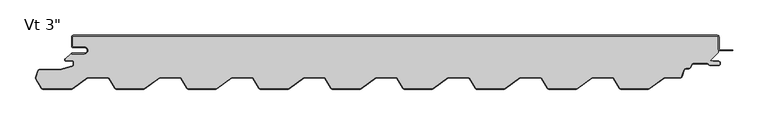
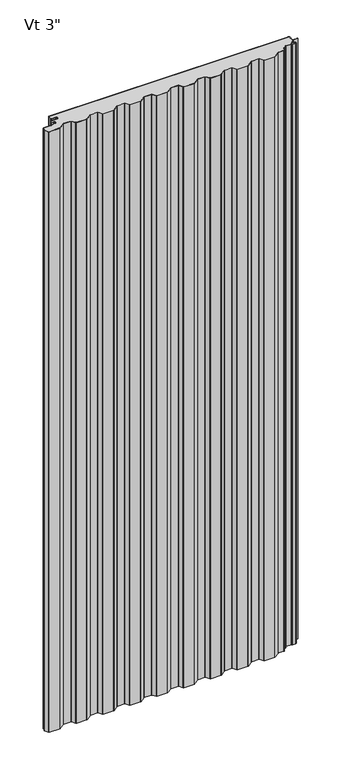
"""IFC4 building model written with IfcOpenShell, lengths in millimetres: plate geometry."""

from ifc_helpers import new_model, si_unit, point, frame_2d, origin, origin_with_axes, place, context, project, spatial, polyline, circle_curve, trimmed, segment, composite_curve, outline, extrude, source, transform, mapped, element, save


def plate_6bac3a30(model_context):
    return source(origin(), model_context, "Body", "SweptSolid", [
        extrude(outline(composite_curve([segment(trimmed(circle_curve(frame_2d((457.1717591, -19.452954)), 2.3819944), [point((457.1717591, -21.8349484))], [point((454.7897647, -19.452954))], False, "CARTESIAN"), True, "CONTINUOUS"), segment(polyline([(454.7897647, -19.452954), (454.7897647, -2.3819944)]), True, "CONTINUOUS"), segment(trimmed(circle_curve(frame_2d((453.2017685, -2.3819944)), 1.5879962), [point((454.7897647, -2.3819944))], [point((453.2017685, -0.7939981))], True, "CARTESIAN"), True, "CONTINUOUS"), segment(polyline([(453.2017685, -0.7939981), (-454.8180056, -0.7939981)]), True, "CONTINUOUS"), segment(trimmed(circle_curve(frame_2d((-454.8180056, -2.3819944)), 1.5879962), [point((-454.8180056, -0.7939981))], [point((-456.4060019, -2.3819944))], True, "CARTESIAN"), True, "CONTINUOUS"), segment(polyline([(-456.4060019, -2.3819944), (-456.4060019, -15.0859644)]), True, "CONTINUOUS"), segment(trimmed(circle_curve(frame_2d((-454.8180056, -15.0859644)), 1.5879962), [point((-456.4060019, -15.0859644))], [point((-454.8180056, -16.6739606))], True, "CARTESIAN"), True, "CONTINUOUS"), segment(polyline([(-454.8180056, -16.6739606), (-438.9380431, -16.6739606)]), True, "CONTINUOUS"), segment(trimmed(circle_curve(frame_2d((-438.9380431, -21.4379494)), 4.7639887), [point((-438.9380431, -16.6739606))], [point((-438.9380431, -26.2019381))], False, "CARTESIAN"), True, "CONTINUOUS"), segment(polyline([(-438.9380431, -26.2019381), (-457.2, -26.2019381), (-457.2, -25.40794), (-438.9380431, -25.40794)]), True, "CONTINUOUS"), segment(trimmed(circle_curve(frame_2d((-438.9380431, -21.4379494)), 3.9699906), [point((-438.9380431, -25.40794))], [point((-438.9380431, -17.4679587))], True, "CARTESIAN"), True, "CONTINUOUS"), segment(polyline([(-438.9380431, -17.4679587), (-454.8180056, -17.4679587)]), True, "CONTINUOUS"), segment(trimmed(circle_curve(frame_2d((-454.8180056, -15.0859644)), 2.3819944), [point((-454.8180056, -17.4679587))], [point((-457.2, -15.0859644))], False, "CARTESIAN"), True, "CONTINUOUS"), segment(polyline([(-457.2, -15.0859644), (-457.2, -2.3819944)]), True, "CONTINUOUS"), segment(trimmed(circle_curve(frame_2d((-454.8180056, -2.3819944)), 2.3819944), [point((-457.2, -2.3819944))], [point((-454.8180056, 0.0))], False, "CARTESIAN"), True, "CONTINUOUS"), segment(polyline([(-454.8180056, 0.0), (453.2017685, 0.0)]), True, "CONTINUOUS"), segment(trimmed(circle_curve(frame_2d((453.2017685, -2.3819944)), 2.3819944), [point((453.2017685, 0.0))], [point((455.5837628, -2.3819944))], False, "CARTESIAN"), True, "CONTINUOUS"), segment(polyline([(455.5837628, -2.3819944), (455.5837628, -19.452954)]), True, "CONTINUOUS"), segment(trimmed(circle_curve(frame_2d((457.1717591, -19.452954)), 1.5879962), [point((455.5837628, -19.452954))], [point((457.1717591, -21.0409503))], True, "CARTESIAN"), True, "CONTINUOUS"), segment(polyline([(457.1717591, -21.0409503), (474.6397178, -21.0409503), (474.6397178, -21.8349484), (457.1717591, -21.8349484)]), True, "CONTINUOUS")], self_intersect=False)), origin_with_axes(), (0.0, 0.0, 1.0), 2400.0),
        extrude(outline(composite_curve([segment(trimmed(circle_curve(frame_2d((454.386154, -39.7050509)), 2.3819944), [point((454.4697098, -37.3245224))], [point((456.7681484, -39.7050509))], False, "CARTESIAN"), True, "CONTINUOUS"), segment(trimmed(circle_curve(frame_2d((454.386154, -39.7050509)), 2.3819944), [point((456.7681484, -39.7050509))], [point((454.3711285, -42.0869979))], False, "CARTESIAN"), True, "CONTINUOUS"), segment(polyline([(454.3711285, -42.0869979), (443.4817205, -42.0869979)]), True, "CONTINUOUS"), segment(trimmed(circle_curve(frame_2d((443.4817205, -39.7050035)), 2.3819944), [point((443.4817205, -42.0869979))], [point((441.4482117, -40.9454628))], False, "CARTESIAN"), True, "CONTINUOUS"), segment(trimmed(circle_curve(frame_2d((438.7639801, -42.5828691)), 3.1442326), [point((441.4482117, -40.9454628))], [point((438.7639801, -39.4386365))], True, "CARTESIAN"), True, "CONTINUOUS"), segment(polyline([(438.7639801, -39.4386365), (419.8818929, -39.4386365)]), True, "CONTINUOUS"), segment(trimmed(circle_curve(frame_2d((419.8818929, -42.5828691)), 3.1442326), [point((419.8818929, -39.4386365))], [point((417.1272542, -41.0668994))], True, "CARTESIAN"), True, "CONTINUOUS"), segment(polyline([(417.1272542, -41.0668994), (414.8105341, -45.276566)]), True, "CONTINUOUS"), segment(trimmed(circle_curve(frame_2d((412.7236865, -44.1281042)), 2.3819944), [point((414.8105341, -45.276566))], [point((412.7236865, -46.5100985))], False, "CARTESIAN"), True, "CONTINUOUS"), segment(polyline([(412.7236865, -46.5100985), (409.0593718, -46.5100985)]), True, "CONTINUOUS"), segment(trimmed(circle_curve(frame_2d((409.0593718, -49.6543311)), 3.1442326), [point((409.0593718, -46.5100985))], [point((406.1047597, -48.5789402))], True, "CARTESIAN"), True, "CONTINUOUS"), segment(polyline([(406.1047597, -48.5789402), (402.692978, -57.9527332)]), True, "CONTINUOUS"), segment(trimmed(circle_curve(frame_2d((400.4546355, -57.1380431)), 2.3819944), [point((402.692978, -57.9527332))], [point((400.4546355, -59.5200375))], False, "CARTESIAN"), True, "CONTINUOUS"), segment(polyline([(400.4546355, -59.5200375), (379.6554059, -59.5200375)]), True, "CONTINUOUS"), segment(trimmed(circle_curve(frame_2d((379.6554059, -61.870272)), 2.3502344), [point((379.6554059, -59.5200375))], [point((378.2893598, -59.9578075))], True, "CARTESIAN"), True, "CONTINUOUS"), segment(polyline([(378.2893598, -59.9578075), (357.0843971, -75.1042095)]), True, "CONTINUOUS"), segment(trimmed(circle_curve(frame_2d((356.1613931, -73.8120038)), 1.5879962), [point((357.0843971, -75.1042095))], [point((356.1613931, -75.4))], False, "CARTESIAN"), True, "CONTINUOUS"), segment(polyline([(356.1613931, -75.4), (316.9573387, -75.4)]), True, "CONTINUOUS"), segment(trimmed(circle_curve(frame_2d((316.9573387, -73.8120038)), 1.5879962), [point((316.9573387, -75.4))], [point((315.5956432, -74.6290211))], False, "CARTESIAN"), True, "CONTINUOUS"), segment(polyline([(315.5956432, -74.6290211), (307.2148823, -60.6610863)]), True, "CONTINUOUS"), segment(trimmed(circle_curve(frame_2d((305.1995729, -61.870272)), 2.3502344), [point((307.2148823, -60.6610863))], [point((305.1995729, -59.5200375))], True, "CARTESIAN"), True, "CONTINUOUS"), segment(polyline([(305.1995729, -59.5200375), (278.0236459, -59.5200375)]), True, "CONTINUOUS"), segment(trimmed(circle_curve(frame_2d((278.0236459, -61.870272)), 2.3502344), [point((278.0236459, -59.5200375))], [point((276.6575999, -59.9578075))], True, "CARTESIAN"), True, "CONTINUOUS"), segment(polyline([(276.6575999, -59.9578075), (255.4526372, -75.1042095)]), True, "CONTINUOUS"), segment(trimmed(circle_curve(frame_2d((254.5296331, -73.8120038)), 1.5879962), [point((255.4526372, -75.1042095))], [point((254.5296331, -75.4))], False, "CARTESIAN"), True, "CONTINUOUS"), segment(polyline([(254.5296331, -75.4), (215.3255788, -75.4)]), True, "CONTINUOUS"), segment(trimmed(circle_curve(frame_2d((215.3255788, -73.8120038)), 1.5879962), [point((215.3255788, -75.4))], [point((213.9638833, -74.6290211))], False, "CARTESIAN"), True, "CONTINUOUS"), segment(polyline([(213.9638833, -74.6290211), (205.5831224, -60.6610863)]), True, "CONTINUOUS"), segment(trimmed(circle_curve(frame_2d((203.567813, -61.870272)), 2.3502344), [point((205.5831224, -60.6610863))], [point((203.567813, -59.5200375))], True, "CARTESIAN"), True, "CONTINUOUS"), segment(polyline([(203.567813, -59.5200375), (176.391886, -59.5200375)]), True, "CONTINUOUS"), segment(trimmed(circle_curve(frame_2d((176.391886, -61.870272)), 2.3502344), [point((176.391886, -59.5200375))], [point((175.02584, -59.9578075))], True, "CARTESIAN"), True, "CONTINUOUS"), segment(polyline([(175.02584, -59.9578075), (153.8208773, -75.1042095)]), True, "CONTINUOUS"), segment(trimmed(circle_curve(frame_2d((152.8978732, -73.8120038)), 1.5879962), [point((153.8208773, -75.1042095))], [point((152.8978732, -75.4))], False, "CARTESIAN"), True, "CONTINUOUS"), segment(polyline([(152.8978732, -75.4), (113.6938189, -75.4)]), True, "CONTINUOUS"), segment(trimmed(circle_curve(frame_2d((113.6938189, -73.8120038)), 1.5879962), [point((113.6938189, -75.4))], [point((112.3321233, -74.6290211))], False, "CARTESIAN"), True, "CONTINUOUS"), segment(polyline([(112.3321233, -74.6290211), (103.9513625, -60.6610863)]), True, "CONTINUOUS"), segment(trimmed(circle_curve(frame_2d((101.9360531, -61.870272)), 2.3502344), [point((103.9513625, -60.6610863))], [point((101.9360531, -59.5200375))], True, "CARTESIAN"), True, "CONTINUOUS"), segment(polyline([(101.9360531, -59.5200375), (74.7601261, -59.5200375)]), True, "CONTINUOUS"), segment(trimmed(circle_curve(frame_2d((74.7601261, -61.870272)), 2.3502344), [point((74.7601261, -59.5200375))], [point((73.3940801, -59.9578075))], True, "CARTESIAN"), True, "CONTINUOUS"), segment(polyline([(73.3940801, -59.9578075), (52.1891174, -75.1042095)]), True, "CONTINUOUS"), segment(trimmed(circle_curve(frame_2d((51.2661133, -73.8120038)), 1.5879962), [point((52.1891174, -75.1042095))], [point((51.2661133, -75.4))], False, "CARTESIAN"), True, "CONTINUOUS"), segment(polyline([(51.2661133, -75.4), (12.062059, -75.4)]), True, "CONTINUOUS"), segment(trimmed(circle_curve(frame_2d((12.062059, -73.8120038)), 1.5879962), [point((12.062059, -75.4))], [point((10.7003634, -74.6290211))], False, "CARTESIAN"), True, "CONTINUOUS"), segment(polyline([(10.7003634, -74.6290211), (2.3196026, -60.6610863)]), True, "CONTINUOUS"), segment(trimmed(circle_curve(frame_2d((0.3042931, -61.870272)), 2.3502344), [point((2.3196026, -60.6610863))], [point((0.3042931, -59.5200375))], True, "CARTESIAN"), True, "CONTINUOUS"), segment(polyline([(0.3042931, -59.5200375), (-26.8716338, -59.5200375)]), True, "CONTINUOUS"), segment(trimmed(circle_curve(frame_2d((-26.8716338, -61.870272)), 2.3502344), [point((-26.8716338, -59.5200375))], [point((-28.2376799, -59.9578075))], True, "CARTESIAN"), True, "CONTINUOUS"), segment(polyline([(-28.2376799, -59.9578075), (-49.4426426, -75.1042095)]), True, "CONTINUOUS"), segment(trimmed(circle_curve(frame_2d((-50.3656466, -73.8120038)), 1.5879962), [point((-49.4426426, -75.1042095))], [point((-50.3656466, -75.4))], False, "CARTESIAN"), True, "CONTINUOUS"), segment(polyline([(-50.3656466, -75.4), (-89.569701, -75.4)]), True, "CONTINUOUS"), segment(trimmed(circle_curve(frame_2d((-89.569701, -73.8120038)), 1.5879962), [point((-89.569701, -75.4))], [point((-90.9313965, -74.6290211))], False, "CARTESIAN"), True, "CONTINUOUS"), segment(polyline([(-90.9313965, -74.6290211), (-99.3121574, -60.6610863)]), True, "CONTINUOUS"), segment(trimmed(circle_curve(frame_2d((-101.3274668, -61.870272)), 2.3502344), [point((-99.3121574, -60.6610863))], [point((-101.3274668, -59.5200375))], True, "CARTESIAN"), True, "CONTINUOUS"), segment(polyline([(-101.3274668, -59.5200375), (-128.5033938, -59.5200375)]), True, "CONTINUOUS"), segment(trimmed(circle_curve(frame_2d((-128.5033938, -61.870272)), 2.3502344), [point((-128.5033938, -59.5200375))], [point((-129.8694398, -59.9578075))], True, "CARTESIAN"), True, "CONTINUOUS"), segment(polyline([(-129.8694398, -59.9578075), (-151.0744025, -75.1042095)]), True, "CONTINUOUS"), segment(trimmed(circle_curve(frame_2d((-151.9974066, -73.8120038)), 1.5879962), [point((-151.0744025, -75.1042095))], [point((-151.9974066, -75.4))], False, "CARTESIAN"), True, "CONTINUOUS"), segment(polyline([(-151.9974066, -75.4), (-191.2014609, -75.4)]), True, "CONTINUOUS"), segment(trimmed(circle_curve(frame_2d((-191.2014609, -73.8120038)), 1.5879962), [point((-191.2014609, -75.4))], [point((-192.5631564, -74.6290211))], False, "CARTESIAN"), True, "CONTINUOUS"), segment(polyline([(-192.5631564, -74.6290211), (-200.9439173, -60.6610863)]), True, "CONTINUOUS"), segment(trimmed(circle_curve(frame_2d((-202.9592267, -61.870272)), 2.3502344), [point((-200.9439173, -60.6610863))], [point((-202.9592267, -59.5200375))], True, "CARTESIAN"), True, "CONTINUOUS"), segment(polyline([(-202.9592267, -59.5200375), (-230.1351537, -59.5200375)]), True, "CONTINUOUS"), segment(trimmed(circle_curve(frame_2d((-230.1351537, -61.870272)), 2.3502344), [point((-230.1351537, -59.5200375))], [point((-231.5011997, -59.9578075))], True, "CARTESIAN"), True, "CONTINUOUS"), segment(polyline([(-231.5011997, -59.9578075), (-252.7061624, -75.1042095)]), True, "CONTINUOUS"), segment(trimmed(circle_curve(frame_2d((-253.6291665, -73.8120038)), 1.5879962), [point((-252.7061624, -75.1042095))], [point((-253.6291665, -75.4))], False, "CARTESIAN"), True, "CONTINUOUS"), segment(polyline([(-253.6291665, -75.4), (-292.8332208, -75.4)]), True, "CONTINUOUS"), segment(trimmed(circle_curve(frame_2d((-292.8332208, -73.8120038)), 1.5879962), [point((-292.8332208, -75.4))], [point((-294.1949164, -74.6290211))], False, "CARTESIAN"), True, "CONTINUOUS"), segment(polyline([(-294.1949164, -74.6290211), (-302.5756772, -60.6610863)]), True, "CONTINUOUS"), segment(trimmed(circle_curve(frame_2d((-304.5909866, -61.870272)), 2.3502344), [point((-302.5756772, -60.6610863))], [point((-304.5909866, -59.5200375))], True, "CARTESIAN"), True, "CONTINUOUS"), segment(polyline([(-304.5909866, -59.5200375), (-331.7669136, -59.5200375)]), True, "CONTINUOUS"), segment(trimmed(circle_curve(frame_2d((-331.7669136, -61.870272)), 2.3502344), [point((-331.7669136, -59.5200375))], [point((-333.1329596, -59.9578075))], True, "CARTESIAN"), True, "CONTINUOUS"), segment(polyline([(-333.1329596, -59.9578075), (-354.3379223, -75.1042095)]), True, "CONTINUOUS"), segment(trimmed(circle_curve(frame_2d((-355.2609264, -73.8120038)), 1.5879962), [point((-354.3379223, -75.1042095))], [point((-355.2609264, -75.4))], False, "CARTESIAN"), True, "CONTINUOUS"), segment(polyline([(-355.2609264, -75.4), (-394.4649807, -75.4)]), True, "CONTINUOUS"), segment(trimmed(circle_curve(frame_2d((-394.4649807, -73.8120038)), 1.5879962), [point((-394.4649807, -75.4))], [point((-395.8266763, -74.6290211))], False, "CARTESIAN"), True, "CONTINUOUS"), segment(polyline([(-395.8266763, -74.6290211), (-404.2074371, -60.6610863)]), True, "CONTINUOUS"), segment(trimmed(circle_curve(frame_2d((-406.2227466, -61.870272)), 2.3502344), [point((-404.2074371, -60.6610863))], [point((-406.2227466, -59.5200375))], True, "CARTESIAN"), True, "CONTINUOUS"), segment(polyline([(-406.2227466, -59.5200375), (-433.3986735, -59.5200375)]), True, "CONTINUOUS"), segment(trimmed(circle_curve(frame_2d((-433.3986735, -61.870272)), 2.3502344), [point((-433.3986735, -59.5200375))], [point((-434.7647196, -59.9578075))], True, "CARTESIAN"), True, "CONTINUOUS"), segment(polyline([(-434.7647196, -59.9578075), (-455.9696823, -75.1042095)]), True, "CONTINUOUS"), segment(trimmed(circle_curve(frame_2d((-456.8926863, -73.8120038)), 1.5879962), [point((-455.9696823, -75.1042095))], [point((-456.8926863, -75.4))], False, "CARTESIAN"), True, "CONTINUOUS"), segment(polyline([(-456.8926863, -75.4), (-497.6512342, -75.4)]), True, "CONTINUOUS"), segment(trimmed(circle_curve(frame_2d((-497.6512342, -73.8120038)), 1.5879962), [point((-497.6512342, -75.4))], [point((-499.0129298, -74.6290211))], False, "CARTESIAN"), True, "CONTINUOUS"), segment(polyline([(-499.0129298, -74.6290211), (-506.8856614, -61.5078017)]), True, "CONTINUOUS"), segment(trimmed(circle_curve(frame_2d((-504.8431181, -60.2822757)), 2.3819944), [point((-506.8856614, -61.5078017))], [point((-507.0814606, -59.4675857))], False, "CARTESIAN"), True, "CONTINUOUS"), segment(polyline([(-507.0814606, -59.4675857), (-503.8568323, -50.6079921)]), True, "CONTINUOUS"), segment(trimmed(circle_curve(frame_2d((-501.6184897, -51.4226821)), 2.3819944), [point((-503.8568323, -50.6079921))], [point((-501.6184897, -49.0406877))], False, "CARTESIAN"), True, "CONTINUOUS"), segment(polyline([(-501.6184897, -49.0406877), (-474.4333743, -49.0406877)]), True, "CONTINUOUS"), segment(trimmed(circle_curve(frame_2d((-474.4333743, -45.8964552)), 3.1442326), [point((-474.4333743, -49.0406877))], [point((-473.6083609, -48.9305203))], True, "CARTESIAN"), True, "CONTINUOUS"), segment(polyline([(-473.6083609, -48.9305203), (-456.1290442, -44.1775993)]), True, "CONTINUOUS"), segment(trimmed(circle_curve(frame_2d((-456.9540576, -41.1435342)), 3.1442326), [point((-456.1290442, -44.1775993))], [point((-453.8098251, -41.1435342))], True, "CARTESIAN"), True, "CONTINUOUS"), segment(polyline([(-453.8098251, -41.1435342), (-453.8098251, -38.4816786)]), True, "CONTINUOUS"), segment(trimmed(circle_curve(frame_2d((-456.9540576, -38.4816786)), 3.1442326), [point((-453.8098251, -38.4816786))], [point((-456.9540576, -35.3374461))], True, "CARTESIAN"), True, "CONTINUOUS"), segment(polyline([(-456.9540576, -35.3374461), (-465.0420194, -35.3374461)]), True, "CONTINUOUS"), segment(trimmed(circle_curve(frame_2d((-465.0420194, -34.5434479)), 0.7939981), [point((-465.0420194, -35.3374461))], [point((-465.6034609, -33.9820065))], False, "CARTESIAN"), True, "CONTINUOUS"), segment(polyline([(-465.6034609, -33.9820065), (-465.0420194, -33.420565), (-465.6126539, -32.8499306), (-458.6125706, -26.2098781), (-438.9380431, -26.2098781)]), True, "CONTINUOUS"), segment(trimmed(circle_curve(frame_2d((-438.9380431, -21.4458893)), 4.7639887), [point((-438.9380431, -26.2098781))], [point((-438.9380431, -16.6819006))], True, "CARTESIAN"), True, "CONTINUOUS"), segment(polyline([(-438.9380431, -16.6819006), (-454.8180056, -16.6819006)]), True, "CONTINUOUS"), segment(trimmed(circle_curve(frame_2d((-454.8180056, -15.0939043)), 1.5879962), [point((-454.8180056, -16.6819006))], [point((-456.4060019, -15.0939043))], False, "CARTESIAN"), True, "CONTINUOUS"), segment(polyline([(-456.4060019, -15.0939043), (-456.4060019, -2.3899344)]), True, "CONTINUOUS"), segment(trimmed(circle_curve(frame_2d((-454.8180056, -2.3899344)), 1.5879962), [point((-456.4060019, -2.3899344))], [point((-454.8180056, -0.8019381))], False, "CARTESIAN"), True, "CONTINUOUS"), segment(polyline([(-454.8180056, -0.8019381), (453.2017685, -0.8019381)]), True, "CONTINUOUS"), segment(trimmed(circle_curve(frame_2d((453.2017685, -2.3899344)), 1.5879962), [point((453.2017685, -0.8019381))], [point((454.7897647, -2.3899344))], False, "CARTESIAN"), True, "CONTINUOUS"), segment(polyline([(454.7897647, -2.3899344), (454.7897647, -24.2495291), (442.3000396, -36.0968783), (446.4274498, -36.2417491), (446.3993873, -37.0412567), (454.4697098, -37.3245224)]), True, "CONTINUOUS")], self_intersect=False)), origin_with_axes(), (0.0, 0.0, 1.0), 2400.0),
        extrude(outline(composite_curve([segment(polyline([(454.4697098, -37.3245224), (446.3993873, -37.0412567), (446.4274498, -36.2417491), (454.4977723, -36.5250148)]), True, "CONTINUOUS"), segment(trimmed(circle_curve(frame_2d((454.386154, -39.7050509)), 3.1819944), [point((454.4977723, -36.5250148))], [point((457.5681484, -39.7050509))], False, "CARTESIAN"), True, "CONTINUOUS"), segment(trimmed(circle_curve(frame_2d((454.386154, -39.7050509)), 3.1819944), [point((457.5681484, -39.7050509))], [point((454.3687877, -42.8869979))], False, "CARTESIAN"), True, "CONTINUOUS"), segment(polyline([(454.3687877, -42.8869979), (443.4817205, -42.8869979)]), True, "CONTINUOUS"), segment(trimmed(circle_curve(frame_2d((443.4817205, -39.7050035)), 3.1819944), [point((443.4817205, -42.8869979))], [point((440.7652516, -41.3620748))], False, "CARTESIAN"), True, "CONTINUOUS"), segment(trimmed(circle_curve(frame_2d((438.7639801, -42.5828691)), 2.3442326), [point((440.7652516, -41.3620748))], [point((438.7639801, -40.2386365))], True, "CARTESIAN"), True, "CONTINUOUS"), segment(polyline([(438.7639801, -40.2386365), (419.8818929, -40.2386365)]), True, "CONTINUOUS"), segment(trimmed(circle_curve(frame_2d((419.8818929, -42.5828691)), 2.3442326), [point((419.8818929, -40.2386365))], [point((417.8281282, -41.4526138))], True, "CARTESIAN"), True, "CONTINUOUS"), segment(polyline([(417.8281282, -41.4526138), (415.5114081, -45.6622804)]), True, "CONTINUOUS"), segment(trimmed(circle_curve(frame_2d((412.7236865, -44.1281042)), 3.1819944), [point((415.5114081, -45.6622804))], [point((412.7236865, -47.3100985))], False, "CARTESIAN"), True, "CONTINUOUS"), segment(polyline([(412.7236865, -47.3100985), (409.0593718, -47.3100985)]), True, "CONTINUOUS"), segment(trimmed(circle_curve(frame_2d((409.0593718, -49.6543311)), 2.3442326), [point((409.0593718, -47.3100985))], [point((406.8565137, -48.8525564))], True, "CARTESIAN"), True, "CONTINUOUS"), segment(polyline([(406.8565137, -48.8525564), (403.4447321, -58.2263493)]), True, "CONTINUOUS"), segment(trimmed(circle_curve(frame_2d((400.4546355, -57.1380431)), 3.1819944), [point((403.4447321, -58.2263493))], [point((400.4546355, -60.3200375))], False, "CARTESIAN"), True, "CONTINUOUS"), segment(polyline([(400.4546355, -60.3200375), (379.6554059, -60.3200375)]), True, "CONTINUOUS"), segment(trimmed(circle_curve(frame_2d((379.6554059, -61.870272)), 1.5502344), [point((379.6554059, -60.3200375))], [point((378.7543504, -60.6087943))], True, "CARTESIAN"), True, "CONTINUOUS"), segment(polyline([(378.7543504, -60.6087943), (357.5493877, -75.7551962)]), True, "CONTINUOUS"), segment(trimmed(circle_curve(frame_2d((356.1613931, -73.8120038)), 2.3879962), [point((357.5493877, -75.7551962))], [point((356.1613931, -76.2))], False, "CARTESIAN"), True, "CONTINUOUS"), segment(polyline([(356.1613931, -76.2), (316.9573387, -76.2)]), True, "CONTINUOUS"), segment(trimmed(circle_curve(frame_2d((316.9573387, -73.8120038)), 2.3879962), [point((316.9573387, -76.2))], [point((314.9096489, -75.0406177))], False, "CARTESIAN"), True, "CONTINUOUS"), segment(polyline([(314.9096489, -75.0406177), (306.528888, -61.0726829)]), True, "CONTINUOUS"), segment(trimmed(circle_curve(frame_2d((305.1995729, -61.870272)), 1.5502344), [point((306.528888, -61.0726829))], [point((305.1995729, -60.3200375))], True, "CARTESIAN"), True, "CONTINUOUS"), segment(polyline([(305.1995729, -60.3200375), (278.0236459, -60.3200375)]), True, "CONTINUOUS"), segment(trimmed(circle_curve(frame_2d((278.0236459, -61.870272)), 1.5502344), [point((278.0236459, -60.3200375))], [point((277.1225905, -60.6087943))], True, "CARTESIAN"), True, "CONTINUOUS"), segment(polyline([(277.1225905, -60.6087943), (255.9176278, -75.7551962)]), True, "CONTINUOUS"), segment(trimmed(circle_curve(frame_2d((254.5296331, -73.8120038)), 2.3879962), [point((255.9176278, -75.7551962))], [point((254.5296331, -76.2))], False, "CARTESIAN"), True, "CONTINUOUS"), segment(polyline([(254.5296331, -76.2), (215.3255788, -76.2)]), True, "CONTINUOUS"), segment(trimmed(circle_curve(frame_2d((215.3255788, -73.8120038)), 2.3879962), [point((215.3255788, -76.2))], [point((213.2778889, -75.0406177))], False, "CARTESIAN"), True, "CONTINUOUS"), segment(polyline([(213.2778889, -75.0406177), (204.8971281, -61.0726829)]), True, "CONTINUOUS"), segment(trimmed(circle_curve(frame_2d((203.567813, -61.870272)), 1.5502344), [point((204.8971281, -61.0726829))], [point((203.567813, -60.3200375))], True, "CARTESIAN"), True, "CONTINUOUS"), segment(polyline([(203.567813, -60.3200375), (176.391886, -60.3200375)]), True, "CONTINUOUS"), segment(trimmed(circle_curve(frame_2d((176.391886, -61.870272)), 1.5502344), [point((176.391886, -60.3200375))], [point((175.4908305, -60.6087943))], True, "CARTESIAN"), True, "CONTINUOUS"), segment(polyline([(175.4908305, -60.6087943), (154.2858678, -75.7551962)]), True, "CONTINUOUS"), segment(trimmed(circle_curve(frame_2d((152.8978732, -73.8120038)), 2.3879962), [point((154.2858678, -75.7551962))], [point((152.8978732, -76.2))], False, "CARTESIAN"), True, "CONTINUOUS"), segment(polyline([(152.8978732, -76.2), (113.6938189, -76.2)]), True, "CONTINUOUS"), segment(trimmed(circle_curve(frame_2d((113.6938189, -73.8120038)), 2.3879962), [point((113.6938189, -76.2))], [point((111.646129, -75.0406177))], False, "CARTESIAN"), True, "CONTINUOUS"), segment(polyline([(111.646129, -75.0406177), (103.2653681, -61.0726829)]), True, "CONTINUOUS"), segment(trimmed(circle_curve(frame_2d((101.9360531, -61.870272)), 1.5502344), [point((103.2653681, -61.0726829))], [point((101.9360531, -60.3200375))], True, "CARTESIAN"), True, "CONTINUOUS"), segment(polyline([(101.9360531, -60.3200375), (74.7601261, -60.3200375)]), True, "CONTINUOUS"), segment(trimmed(circle_curve(frame_2d((74.7601261, -61.870272)), 1.5502344), [point((74.7601261, -60.3200375))], [point((73.8590706, -60.6087943))], True, "CARTESIAN"), True, "CONTINUOUS"), segment(polyline([(73.8590706, -60.6087943), (52.6541079, -75.7551962)]), True, "CONTINUOUS"), segment(trimmed(circle_curve(frame_2d((51.2661133, -73.8120038)), 2.3879962), [point((52.6541079, -75.7551962))], [point((51.2661133, -76.2))], False, "CARTESIAN"), True, "CONTINUOUS"), segment(polyline([(51.2661133, -76.2), (12.062059, -76.2)]), True, "CONTINUOUS"), segment(trimmed(circle_curve(frame_2d((12.062059, -73.8120038)), 2.3879962), [point((12.062059, -76.2))], [point((10.0143691, -75.0406177))], False, "CARTESIAN"), True, "CONTINUOUS"), segment(polyline([(10.0143691, -75.0406177), (1.6336082, -61.0726829)]), True, "CONTINUOUS"), segment(trimmed(circle_curve(frame_2d((0.3042931, -61.870272)), 1.5502344), [point((1.6336082, -61.0726829))], [point((0.3042931, -60.3200375))], True, "CARTESIAN"), True, "CONTINUOUS"), segment(polyline([(0.3042931, -60.3200375), (-26.8716338, -60.3200375)]), True, "CONTINUOUS"), segment(trimmed(circle_curve(frame_2d((-26.8716338, -61.870272)), 1.5502344), [point((-26.8716338, -60.3200375))], [point((-27.7726893, -60.6087943))], True, "CARTESIAN"), True, "CONTINUOUS"), segment(polyline([(-27.7726893, -60.6087943), (-48.977652, -75.7551962)]), True, "CONTINUOUS"), segment(trimmed(circle_curve(frame_2d((-50.3656466, -73.8120038)), 2.3879962), [point((-48.977652, -75.7551962))], [point((-50.3656466, -76.2))], False, "CARTESIAN"), True, "CONTINUOUS"), segment(polyline([(-50.3656466, -76.2), (-89.569701, -76.2)]), True, "CONTINUOUS"), segment(trimmed(circle_curve(frame_2d((-89.569701, -73.8120038)), 2.3879962), [point((-89.569701, -76.2))], [point((-91.6173908, -75.0406177))], False, "CARTESIAN"), True, "CONTINUOUS"), segment(polyline([(-91.6173908, -75.0406177), (-99.9981517, -61.0726829)]), True, "CONTINUOUS"), segment(trimmed(circle_curve(frame_2d((-101.3274668, -61.870272)), 1.5502344), [point((-99.9981517, -61.0726829))], [point((-101.3274668, -60.3200375))], True, "CARTESIAN"), True, "CONTINUOUS"), segment(polyline([(-101.3274668, -60.3200375), (-128.5033938, -60.3200375)]), True, "CONTINUOUS"), segment(trimmed(circle_curve(frame_2d((-128.5033938, -61.870272)), 1.5502344), [point((-128.5033938, -60.3200375))], [point((-129.4044492, -60.6087943))], True, "CARTESIAN"), True, "CONTINUOUS"), segment(polyline([(-129.4044492, -60.6087943), (-150.6094119, -75.7551962)]), True, "CONTINUOUS"), segment(trimmed(circle_curve(frame_2d((-151.9974066, -73.8120038)), 2.3879962), [point((-150.6094119, -75.7551962))], [point((-151.9974066, -76.2))], False, "CARTESIAN"), True, "CONTINUOUS"), segment(polyline([(-151.9974066, -76.2), (-191.2014609, -76.2)]), True, "CONTINUOUS"), segment(trimmed(circle_curve(frame_2d((-191.2014609, -73.8120038)), 2.3879962), [point((-191.2014609, -76.2))], [point((-193.2491508, -75.0406177))], False, "CARTESIAN"), True, "CONTINUOUS"), segment(polyline([(-193.2491508, -75.0406177), (-201.6299116, -61.0726829)]), True, "CONTINUOUS"), segment(trimmed(circle_curve(frame_2d((-202.9592267, -61.870272)), 1.5502344), [point((-201.6299116, -61.0726829))], [point((-202.9592267, -60.3200375))], True, "CARTESIAN"), True, "CONTINUOUS"), segment(polyline([(-202.9592267, -60.3200375), (-230.1351537, -60.3200375)]), True, "CONTINUOUS"), segment(trimmed(circle_curve(frame_2d((-230.1351537, -61.870272)), 1.5502344), [point((-230.1351537, -60.3200375))], [point((-231.0362092, -60.6087943))], True, "CARTESIAN"), True, "CONTINUOUS"), segment(polyline([(-231.0362092, -60.6087943), (-252.2411719, -75.7551962)]), True, "CONTINUOUS"), segment(trimmed(circle_curve(frame_2d((-253.6291665, -73.8120038)), 2.3879962), [point((-252.2411719, -75.7551962))], [point((-253.6291665, -76.2))], False, "CARTESIAN"), True, "CONTINUOUS"), segment(polyline([(-253.6291665, -76.2), (-292.8332208, -76.2)]), True, "CONTINUOUS"), segment(trimmed(circle_curve(frame_2d((-292.8332208, -73.8120038)), 2.3879962), [point((-292.8332208, -76.2))], [point((-294.8809107, -75.0406177))], False, "CARTESIAN"), True, "CONTINUOUS"), segment(polyline([(-294.8809107, -75.0406177), (-303.2616716, -61.0726829)]), True, "CONTINUOUS"), segment(trimmed(circle_curve(frame_2d((-304.5909866, -61.870272)), 1.5502344), [point((-303.2616716, -61.0726829))], [point((-304.5909866, -60.3200375))], True, "CARTESIAN"), True, "CONTINUOUS"), segment(polyline([(-304.5909866, -60.3200375), (-331.7669136, -60.3200375)]), True, "CONTINUOUS"), segment(trimmed(circle_curve(frame_2d((-331.7669136, -61.870272)), 1.5502344), [point((-331.7669136, -60.3200375))], [point((-332.6679691, -60.6087943))], True, "CARTESIAN"), True, "CONTINUOUS"), segment(polyline([(-332.6679691, -60.6087943), (-353.8729318, -75.7551962)]), True, "CONTINUOUS"), segment(trimmed(circle_curve(frame_2d((-355.2609264, -73.8120038)), 2.3879962), [point((-353.8729318, -75.7551962))], [point((-355.2609264, -76.2))], False, "CARTESIAN"), True, "CONTINUOUS"), segment(polyline([(-355.2609264, -76.2), (-394.4649807, -76.2)]), True, "CONTINUOUS"), segment(trimmed(circle_curve(frame_2d((-394.4649807, -73.8120038)), 2.3879962), [point((-394.4649807, -76.2))], [point((-396.5126706, -75.0406177))], False, "CARTESIAN"), True, "CONTINUOUS"), segment(polyline([(-396.5126706, -75.0406177), (-404.8934315, -61.0726829)]), True, "CONTINUOUS"), segment(trimmed(circle_curve(frame_2d((-406.2227466, -61.870272)), 1.5502344), [point((-404.8934315, -61.0726829))], [point((-406.2227466, -60.3200375))], True, "CARTESIAN"), True, "CONTINUOUS"), segment(polyline([(-406.2227466, -60.3200375), (-433.3986735, -60.3200375)]), True, "CONTINUOUS"), segment(trimmed(circle_curve(frame_2d((-433.3986735, -61.870272)), 1.5502344), [point((-433.3986735, -60.3200375))], [point((-434.299729, -60.6087943))], True, "CARTESIAN"), True, "CONTINUOUS"), segment(polyline([(-434.299729, -60.6087943), (-455.5046917, -75.7551962)]), True, "CONTINUOUS"), segment(trimmed(circle_curve(frame_2d((-456.8926863, -73.8120038)), 2.3879962), [point((-455.5046917, -75.7551962))], [point((-456.8926863, -76.2))], False, "CARTESIAN"), True, "CONTINUOUS"), segment(polyline([(-456.8926863, -76.2), (-497.6512342, -76.2)]), True, "CONTINUOUS"), segment(trimmed(circle_curve(frame_2d((-497.6512342, -73.8120038)), 2.3879962), [point((-497.6512342, -76.2))], [point((-499.6989241, -75.0406177))], False, "CARTESIAN"), True, "CONTINUOUS"), segment(polyline([(-499.6989241, -75.0406177), (-507.5716558, -61.9193983)]), True, "CONTINUOUS"), segment(trimmed(circle_curve(frame_2d((-504.8431181, -60.2822757)), 3.1819944), [point((-507.5716558, -61.9193983))], [point((-507.8332147, -59.1939695))], False, "CARTESIAN"), True, "CONTINUOUS"), segment(polyline([(-507.8332147, -59.1939695), (-504.6085864, -50.3343759)]), True, "CONTINUOUS"), segment(trimmed(circle_curve(frame_2d((-501.6184897, -51.4226821)), 3.1819944), [point((-504.6085864, -50.3343759))], [point((-501.6184897, -48.2406877))], False, "CARTESIAN"), True, "CONTINUOUS"), segment(polyline([(-501.6184897, -48.2406877), (-474.1203393, -48.2406877), (-456.3389557, -43.4056297)]), True, "CONTINUOUS"), segment(trimmed(circle_curve(frame_2d((-456.9540576, -41.1435342)), 2.3442326), [point((-456.3389557, -43.4056297))], [point((-454.6098251, -41.1435342))], True, "CARTESIAN"), True, "CONTINUOUS"), segment(polyline([(-454.6098251, -41.1435342), (-454.6098251, -38.4816786)]), True, "CONTINUOUS"), segment(trimmed(circle_curve(frame_2d((-456.9540576, -38.4816786)), 2.3442326), [point((-454.6098251, -38.4816786))], [point((-456.9540576, -36.1374461))], True, "CARTESIAN"), True, "CONTINUOUS"), segment(polyline([(-456.9540576, -36.1374461), (-465.1201444, -36.1374461)]), True, "CONTINUOUS"), segment(trimmed(circle_curve(frame_2d((-465.1201444, -34.5434479)), 1.5939981), [point((-465.1201444, -36.1374461))], [point((-466.2472713, -33.4163211))], False, "CARTESIAN"), True, "CONTINUOUS"), segment(polyline([(-466.2472713, -33.4163211), (-465.6858299, -32.8548796), (-465.1201444, -33.420565), (-465.6815859, -33.9820065)]), True, "CONTINUOUS"), segment(trimmed(circle_curve(frame_2d((-465.1201444, -34.5434479)), 0.7939981), [point((-465.6815859, -33.9820065))], [point((-465.1201444, -35.3374461))], True, "CARTESIAN"), True, "CONTINUOUS"), segment(polyline([(-465.1201444, -35.3374461), (-456.9540576, -35.3374461)]), True, "CONTINUOUS"), segment(trimmed(circle_curve(frame_2d((-456.9540576, -38.4816786)), 3.1442326), [point((-456.9540576, -35.3374461))], [point((-453.8098251, -38.4816786))], False, "CARTESIAN"), True, "CONTINUOUS"), segment(polyline([(-453.8098251, -38.4816786), (-453.8098251, -41.1435342)]), True, "CONTINUOUS"), segment(trimmed(circle_curve(frame_2d((-456.9540576, -41.1435342)), 3.1442326), [point((-453.8098251, -41.1435342))], [point((-456.1290442, -44.1775993))], False, "CARTESIAN"), True, "CONTINUOUS"), segment(polyline([(-456.1290442, -44.1775993), (-473.6083609, -48.9305203)]), True, "CONTINUOUS"), segment(trimmed(circle_curve(frame_2d((-474.4333743, -45.8964552)), 3.1442326), [point((-473.6083609, -48.9305203))], [point((-474.4333743, -49.0406877))], False, "CARTESIAN"), True, "CONTINUOUS"), segment(polyline([(-474.4333743, -49.0406877), (-501.6184897, -49.0406877)]), True, "CONTINUOUS"), segment(trimmed(circle_curve(frame_2d((-501.6184897, -51.4226821)), 2.3819944), [point((-501.6184897, -49.0406877))], [point((-503.8568323, -50.6079921))], True, "CARTESIAN"), True, "CONTINUOUS"), segment(polyline([(-503.8568323, -50.6079921), (-507.0814606, -59.4675857)]), True, "CONTINUOUS"), segment(trimmed(circle_curve(frame_2d((-504.8431181, -60.2822757)), 2.3819944), [point((-507.0814606, -59.4675857))], [point((-506.8856614, -61.5078017))], True, "CARTESIAN"), True, "CONTINUOUS"), segment(polyline([(-506.8856614, -61.5078017), (-499.0129298, -74.6290211)]), True, "CONTINUOUS"), segment(trimmed(circle_curve(frame_2d((-497.6512342, -73.8120038)), 1.5879962), [point((-499.0129298, -74.6290211))], [point((-497.6512342, -75.4))], True, "CARTESIAN"), True, "CONTINUOUS"), segment(polyline([(-497.6512342, -75.4), (-456.8926863, -75.4)]), True, "CONTINUOUS"), segment(trimmed(circle_curve(frame_2d((-456.8926863, -73.8120038)), 1.5879962), [point((-456.8926863, -75.4))], [point((-455.9696823, -75.1042095))], True, "CARTESIAN"), True, "CONTINUOUS"), segment(polyline([(-455.9696823, -75.1042095), (-434.7647196, -59.9578075)]), True, "CONTINUOUS"), segment(trimmed(circle_curve(frame_2d((-433.3986735, -61.870272)), 2.3502344), [point((-434.7647196, -59.9578075))], [point((-433.3986735, -59.5200375))], False, "CARTESIAN"), True, "CONTINUOUS"), segment(polyline([(-433.3986735, -59.5200375), (-406.2227466, -59.5200375)]), True, "CONTINUOUS"), segment(trimmed(circle_curve(frame_2d((-406.2227466, -61.870272)), 2.3502344), [point((-406.2227466, -59.5200375))], [point((-404.2074371, -60.6610863))], False, "CARTESIAN"), True, "CONTINUOUS"), segment(polyline([(-404.2074371, -60.6610863), (-395.8266763, -74.6290211)]), True, "CONTINUOUS"), segment(trimmed(circle_curve(frame_2d((-394.4649807, -73.8120038)), 1.5879962), [point((-395.8266763, -74.6290211))], [point((-394.4649807, -75.4))], True, "CARTESIAN"), True, "CONTINUOUS"), segment(polyline([(-394.4649807, -75.4), (-355.2609264, -75.4)]), True, "CONTINUOUS"), segment(trimmed(circle_curve(frame_2d((-355.2609264, -73.8120038)), 1.5879962), [point((-355.2609264, -75.4))], [point((-354.3379223, -75.1042095))], True, "CARTESIAN"), True, "CONTINUOUS"), segment(polyline([(-354.3379223, -75.1042095), (-333.1329596, -59.9578075)]), True, "CONTINUOUS"), segment(trimmed(circle_curve(frame_2d((-331.7669136, -61.870272)), 2.3502344), [point((-333.1329596, -59.9578075))], [point((-331.7669136, -59.5200375))], False, "CARTESIAN"), True, "CONTINUOUS"), segment(polyline([(-331.7669136, -59.5200375), (-304.5909866, -59.5200375)]), True, "CONTINUOUS"), segment(trimmed(circle_curve(frame_2d((-304.5909866, -61.870272)), 2.3502344), [point((-304.5909866, -59.5200375))], [point((-302.5756772, -60.6610863))], False, "CARTESIAN"), True, "CONTINUOUS"), segment(polyline([(-302.5756772, -60.6610863), (-294.1949164, -74.6290211)]), True, "CONTINUOUS"), segment(trimmed(circle_curve(frame_2d((-292.8332208, -73.8120038)), 1.5879962), [point((-294.1949164, -74.6290211))], [point((-292.8332208, -75.4))], True, "CARTESIAN"), True, "CONTINUOUS"), segment(polyline([(-292.8332208, -75.4), (-253.6291665, -75.4)]), True, "CONTINUOUS"), segment(trimmed(circle_curve(frame_2d((-253.6291665, -73.8120038)), 1.5879962), [point((-253.6291665, -75.4))], [point((-252.7061624, -75.1042095))], True, "CARTESIAN"), True, "CONTINUOUS"), segment(polyline([(-252.7061624, -75.1042095), (-231.5011997, -59.9578075)]), True, "CONTINUOUS"), segment(trimmed(circle_curve(frame_2d((-230.1351537, -61.870272)), 2.3502344), [point((-231.5011997, -59.9578075))], [point((-230.1351537, -59.5200375))], False, "CARTESIAN"), True, "CONTINUOUS"), segment(polyline([(-230.1351537, -59.5200375), (-202.9592267, -59.5200375)]), True, "CONTINUOUS"), segment(trimmed(circle_curve(frame_2d((-202.9592267, -61.870272)), 2.3502344), [point((-202.9592267, -59.5200375))], [point((-200.9439173, -60.6610863))], False, "CARTESIAN"), True, "CONTINUOUS"), segment(polyline([(-200.9439173, -60.6610863), (-192.5631564, -74.6290211)]), True, "CONTINUOUS"), segment(trimmed(circle_curve(frame_2d((-191.2014609, -73.8120038)), 1.5879962), [point((-192.5631564, -74.6290211))], [point((-191.2014609, -75.4))], True, "CARTESIAN"), True, "CONTINUOUS"), segment(polyline([(-191.2014609, -75.4), (-151.9974066, -75.4)]), True, "CONTINUOUS"), segment(trimmed(circle_curve(frame_2d((-151.9974066, -73.8120038)), 1.5879962), [point((-151.9974066, -75.4))], [point((-151.0744025, -75.1042095))], True, "CARTESIAN"), True, "CONTINUOUS"), segment(polyline([(-151.0744025, -75.1042095), (-129.8694398, -59.9578075)]), True, "CONTINUOUS"), segment(trimmed(circle_curve(frame_2d((-128.5033938, -61.870272)), 2.3502344), [point((-129.8694398, -59.9578075))], [point((-128.5033938, -59.5200375))], False, "CARTESIAN"), True, "CONTINUOUS"), segment(polyline([(-128.5033938, -59.5200375), (-101.3274668, -59.5200375)]), True, "CONTINUOUS"), segment(trimmed(circle_curve(frame_2d((-101.3274668, -61.870272)), 2.3502344), [point((-101.3274668, -59.5200375))], [point((-99.3121574, -60.6610863))], False, "CARTESIAN"), True, "CONTINUOUS"), segment(polyline([(-99.3121574, -60.6610863), (-90.9313965, -74.6290211)]), True, "CONTINUOUS"), segment(trimmed(circle_curve(frame_2d((-89.569701, -73.8120038)), 1.5879962), [point((-90.9313965, -74.6290211))], [point((-89.569701, -75.4))], True, "CARTESIAN"), True, "CONTINUOUS"), segment(polyline([(-89.569701, -75.4), (-50.3656466, -75.4)]), True, "CONTINUOUS"), segment(trimmed(circle_curve(frame_2d((-50.3656466, -73.8120038)), 1.5879962), [point((-50.3656466, -75.4))], [point((-49.4426426, -75.1042095))], True, "CARTESIAN"), True, "CONTINUOUS"), segment(polyline([(-49.4426426, -75.1042095), (-28.2376799, -59.9578075)]), True, "CONTINUOUS"), segment(trimmed(circle_curve(frame_2d((-26.8716338, -61.870272)), 2.3502344), [point((-28.2376799, -59.9578075))], [point((-26.8716338, -59.5200375))], False, "CARTESIAN"), True, "CONTINUOUS"), segment(polyline([(-26.8716338, -59.5200375), (0.3042931, -59.5200375)]), True, "CONTINUOUS"), segment(trimmed(circle_curve(frame_2d((0.3042931, -61.870272)), 2.3502344), [point((0.3042931, -59.5200375))], [point((2.3196026, -60.6610863))], False, "CARTESIAN"), True, "CONTINUOUS"), segment(polyline([(2.3196026, -60.6610863), (10.7003634, -74.6290211)]), True, "CONTINUOUS"), segment(trimmed(circle_curve(frame_2d((12.062059, -73.8120038)), 1.5879962), [point((10.7003634, -74.6290211))], [point((12.062059, -75.4))], True, "CARTESIAN"), True, "CONTINUOUS"), segment(polyline([(12.062059, -75.4), (51.2661133, -75.4)]), True, "CONTINUOUS"), segment(trimmed(circle_curve(frame_2d((51.2661133, -73.8120038)), 1.5879962), [point((51.2661133, -75.4))], [point((52.1891174, -75.1042095))], True, "CARTESIAN"), True, "CONTINUOUS"), segment(polyline([(52.1891174, -75.1042095), (73.3940801, -59.9578075)]), True, "CONTINUOUS"), segment(trimmed(circle_curve(frame_2d((74.7601261, -61.870272)), 2.3502344), [point((73.3940801, -59.9578075))], [point((74.7601261, -59.5200375))], False, "CARTESIAN"), True, "CONTINUOUS"), segment(polyline([(74.7601261, -59.5200375), (101.9360531, -59.5200375)]), True, "CONTINUOUS"), segment(trimmed(circle_curve(frame_2d((101.9360531, -61.870272)), 2.3502344), [point((101.9360531, -59.5200375))], [point((103.9513625, -60.6610863))], False, "CARTESIAN"), True, "CONTINUOUS"), segment(polyline([(103.9513625, -60.6610863), (112.3321233, -74.6290211)]), True, "CONTINUOUS"), segment(trimmed(circle_curve(frame_2d((113.6938189, -73.8120038)), 1.5879962), [point((112.3321233, -74.6290211))], [point((113.6938189, -75.4))], True, "CARTESIAN"), True, "CONTINUOUS"), segment(polyline([(113.6938189, -75.4), (152.8978732, -75.4)]), True, "CONTINUOUS"), segment(trimmed(circle_curve(frame_2d((152.8978732, -73.8120038)), 1.5879962), [point((152.8978732, -75.4))], [point((153.8208773, -75.1042095))], True, "CARTESIAN"), True, "CONTINUOUS"), segment(polyline([(153.8208773, -75.1042095), (175.02584, -59.9578075)]), True, "CONTINUOUS"), segment(trimmed(circle_curve(frame_2d((176.391886, -61.870272)), 2.3502344), [point((175.02584, -59.9578075))], [point((176.391886, -59.5200375))], False, "CARTESIAN"), True, "CONTINUOUS"), segment(polyline([(176.391886, -59.5200375), (203.567813, -59.5200375)]), True, "CONTINUOUS"), segment(trimmed(circle_curve(frame_2d((203.567813, -61.870272)), 2.3502344), [point((203.567813, -59.5200375))], [point((205.5831224, -60.6610863))], False, "CARTESIAN"), True, "CONTINUOUS"), segment(polyline([(205.5831224, -60.6610863), (213.9638833, -74.6290211)]), True, "CONTINUOUS"), segment(trimmed(circle_curve(frame_2d((215.3255788, -73.8120038)), 1.5879962), [point((213.9638833, -74.6290211))], [point((215.3255788, -75.4))], True, "CARTESIAN"), True, "CONTINUOUS"), segment(polyline([(215.3255788, -75.4), (254.5296331, -75.4)]), True, "CONTINUOUS"), segment(trimmed(circle_curve(frame_2d((254.5296331, -73.8120038)), 1.5879962), [point((254.5296331, -75.4))], [point((255.4526372, -75.1042095))], True, "CARTESIAN"), True, "CONTINUOUS"), segment(polyline([(255.4526372, -75.1042095), (276.6575999, -59.9578075)]), True, "CONTINUOUS"), segment(trimmed(circle_curve(frame_2d((278.0236459, -61.870272)), 2.3502344), [point((276.6575999, -59.9578075))], [point((278.0236459, -59.5200375))], False, "CARTESIAN"), True, "CONTINUOUS"), segment(polyline([(278.0236459, -59.5200375), (305.1995729, -59.5200375)]), True, "CONTINUOUS"), segment(trimmed(circle_curve(frame_2d((305.1995729, -61.870272)), 2.3502344), [point((305.1995729, -59.5200375))], [point((307.2148823, -60.6610863))], False, "CARTESIAN"), True, "CONTINUOUS"), segment(polyline([(307.2148823, -60.6610863), (315.5956432, -74.6290211)]), True, "CONTINUOUS"), segment(trimmed(circle_curve(frame_2d((316.9573387, -73.8120038)), 1.5879962), [point((315.5956432, -74.6290211))], [point((316.9573387, -75.4))], True, "CARTESIAN"), True, "CONTINUOUS"), segment(polyline([(316.9573387, -75.4), (356.1613931, -75.4)]), True, "CONTINUOUS"), segment(trimmed(circle_curve(frame_2d((356.1613931, -73.8120038)), 1.5879962), [point((356.1613931, -75.4))], [point((357.0843971, -75.1042095))], True, "CARTESIAN"), True, "CONTINUOUS"), segment(polyline([(357.0843971, -75.1042095), (378.2893598, -59.9578075)]), True, "CONTINUOUS"), segment(trimmed(circle_curve(frame_2d((379.6554059, -61.870272)), 2.3502344), [point((378.2893598, -59.9578075))], [point((379.6554059, -59.5200375))], False, "CARTESIAN"), True, "CONTINUOUS"), segment(polyline([(379.6554059, -59.5200375), (400.4546355, -59.5200375)]), True, "CONTINUOUS"), segment(trimmed(circle_curve(frame_2d((400.4546355, -57.1380431)), 2.3819944), [point((400.4546355, -59.5200375))], [point((402.692978, -57.9527332))], True, "CARTESIAN"), True, "CONTINUOUS"), segment(polyline([(402.692978, -57.9527332), (406.1047597, -48.5789402)]), True, "CONTINUOUS"), segment(trimmed(circle_curve(frame_2d((409.0593718, -49.6543311)), 3.1442326), [point((406.1047597, -48.5789402))], [point((409.0593718, -46.5100985))], False, "CARTESIAN"), True, "CONTINUOUS"), segment(polyline([(409.0593718, -46.5100985), (412.7236865, -46.5100985)]), True, "CONTINUOUS"), segment(trimmed(circle_curve(frame_2d((412.7236865, -44.1281042)), 2.3819944), [point((412.7236865, -46.5100985))], [point((414.8105341, -45.276566))], True, "CARTESIAN"), True, "CONTINUOUS"), segment(polyline([(414.8105341, -45.276566), (417.1272542, -41.0668994)]), True, "CONTINUOUS"), segment(trimmed(circle_curve(frame_2d((419.8818929, -42.5828691)), 3.1442326), [point((417.1272542, -41.0668994))], [point((419.8818929, -39.4386365))], False, "CARTESIAN"), True, "CONTINUOUS"), segment(polyline([(419.8818929, -39.4386365), (438.7639801, -39.4386365)]), True, "CONTINUOUS"), segment(trimmed(circle_curve(frame_2d((438.7639801, -42.5828691)), 3.1442326), [point((438.7639801, -39.4386365))], [point((441.4482117, -40.9454628))], False, "CARTESIAN"), True, "CONTINUOUS"), segment(trimmed(circle_curve(frame_2d((443.4817205, -39.7050035)), 2.3819944), [point((441.4482117, -40.9454628))], [point((443.4817205, -42.0869979))], True, "CARTESIAN"), True, "CONTINUOUS"), segment(polyline([(443.4817205, -42.0869979), (454.3711285, -42.0869979)]), True, "CONTINUOUS"), segment(trimmed(circle_curve(frame_2d((454.386154, -39.7050509)), 2.3819944), [point((454.3711285, -42.0869979))], [point((456.7681484, -39.7050509))], True, "CARTESIAN"), True, "CONTINUOUS"), segment(trimmed(circle_curve(frame_2d((454.386154, -39.7050509)), 2.3819944), [point((456.7681484, -39.7050509))], [point((454.4697098, -37.3245224))], True, "CARTESIAN"), True, "CONTINUOUS")], self_intersect=False)), origin_with_axes(), (0.0, 0.0, 1.0), 2400.0),
    ])


if __name__ == "__main__":
    model = new_model("IFC4")
    model_context = context("Model", 3, world=origin())
    ifc_project = project(units=[si_unit("LENGTHUNIT", "METRE", prefix="MILLI")], contexts=[model_context])
    site = spatial("IfcSite", under=ifc_project)
    building = spatial("IfcBuilding", under=site)
    placement = place(None, origin())
    plate_shape = plate_6bac3a30(model_context)
    element("IfcPlate", 1, ObjectType="KIP-36-Vale-R19-CP-Vt : Vt 3\"", at=placement, inside=building, context=model_context, shape_type="MappedRepresentation", body=[
        mapped(plate_shape, transform((0.0, 0.0, 0.0), x_axis=(1.0, 0.0, 0.0), y_axis=(0.0, 1.0, 0.0), z_axis=(0.0, 0.0, 1.0))),
    ])
    save(model, "model.ifc")
